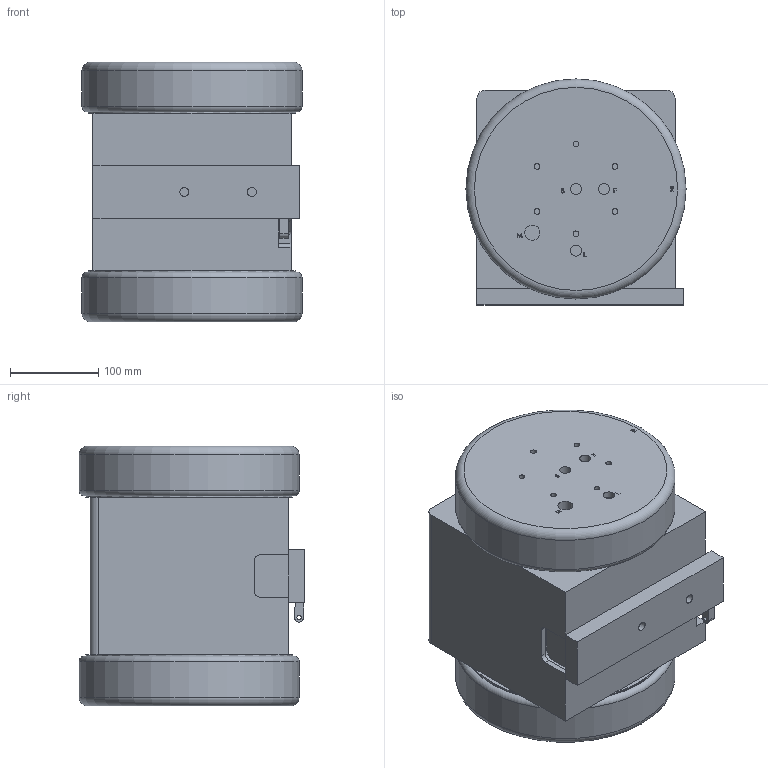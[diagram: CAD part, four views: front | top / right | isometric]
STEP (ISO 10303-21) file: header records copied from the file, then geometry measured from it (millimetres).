
FILE_DESCRIPTION (( 'STEP AP214' ), '1' );
FILE_NAME ('PSU140_without shuttle.STEP', '2013-07-25T19:21:01', ( '' ), ( '' ), 'SwSTEP 2.0', 'SolidWorks 2012', '' );
FILE_SCHEMA (( 'AUTOMOTIVE_DESIGN' ));
Length unit declared in the file: inch
Products named in the file (1): PSU140_without shuttle
Bounding box: 248.92 x 255.52 x 293.88 mm (x, y, z)
Volume: 14592680.7 mm3; surface area: 403736.6 mm2
Topology: 1 solids, 1 shells, 947 faces, 2480 edges, 1645 vertices
Faces by surface type: plane 726, bspline 147, cylinder 69, torus 4, cone 1
Full cylindrical faces by diameter (mm): 3.264 x4, 4.445 x1, 4.902 x1, 6.528 x12, 10.312 x2, 12.725 x6, 17.018 x2, 31.877 x1, 33.401 x1, 38.786 x2, 61.138 x1, 234.29 x2, 248.92 x2
Entity records: 35965 total; most frequent: CARTESIAN_POINT 13038, ORIENTED_EDGE 4864, DIRECTION 3914, EDGE_CURVE 2432, LINE 1964, VECTOR 1964, VERTEX_POINT 1639, EDGE_LOOP 1105
